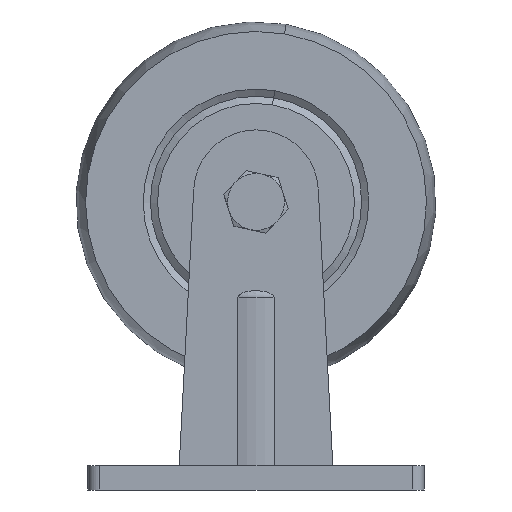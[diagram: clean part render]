
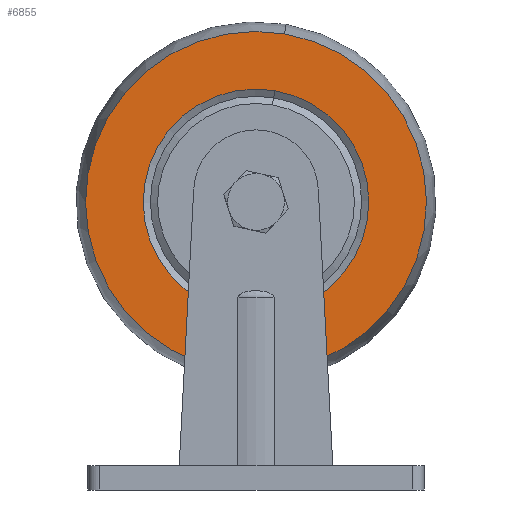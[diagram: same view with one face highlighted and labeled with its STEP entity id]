
A CAD part, front view. The second image highlights one B-rep face of the part: STEP entity #6855.
In plain terms, the highlighted planar face has unit normal (0, -1, 0).
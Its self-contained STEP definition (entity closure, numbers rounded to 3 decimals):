
#88 = DIRECTION ( 'NONE',  ( 0., -1., 0. ) ) ;
#116 = EDGE_CURVE ( 'NONE', #5189, #1787, #7304, .T. ) ;
#209 = AXIS2_PLACEMENT_3D ( 'NONE', #5595, #3317, #7262 ) ;
#318 = DIRECTION ( 'NONE',  ( 0., -1., 0. ) ) ;
#416 = DIRECTION ( 'NONE',  ( 0., 0., -1. ) ) ;
#539 = AXIS2_PLACEMENT_3D ( 'NONE', #3559, #2699, #5055 ) ;
#589 = DIRECTION ( 'NONE',  ( 0., 0., -1. ) ) ;
#900 = ORIENTED_EDGE ( 'NONE', *, *, #3084, .T. ) ;
#980 = FACE_OUTER_BOUND ( 'NONE', #4563, .T. ) ;
#1350 = EDGE_LOOP ( 'NONE', ( #2126, #9699 ) ) ;
#1354 = FACE_BOUND ( 'NONE', #1350, .T. ) ;
#1447 = CARTESIAN_POINT ( 'NONE',  ( 0., 0., 71. ) ) ;
#1524 = DIRECTION ( 'NONE',  ( 0., -1., 0. ) ) ;
#1787 = VERTEX_POINT ( 'NONE', #1447 ) ;
#2126 = ORIENTED_EDGE ( 'NONE', *, *, #7247, .F. ) ;
#2699 = DIRECTION ( 'NONE',  ( 0., -1., 0. ) ) ;
#3084 = EDGE_CURVE ( 'NONE', #1787, #5189, #4012, .T. ) ;
#3317 = DIRECTION ( 'NONE',  ( 0., -1., 0. ) ) ;
#3361 = VERTEX_POINT ( 'NONE', #4545 ) ;
#3559 = CARTESIAN_POINT ( 'NONE',  ( 0., 0., 0. ) ) ;
#4012 = CIRCLE ( 'NONE', #209, 71. ) ;
#4271 = AXIS2_PLACEMENT_3D ( 'NONE', #6201, #1524, #4639 ) ;
#4545 = CARTESIAN_POINT ( 'NONE',  ( 0., 0., 47. ) ) ;
#4563 = EDGE_LOOP ( 'NONE', ( #5663, #900 ) ) ;
#4632 = CIRCLE ( 'NONE', #6557, 47. ) ;
#4639 = DIRECTION ( 'NONE',  ( 0., 0., -1. ) ) ;
#4933 = VERTEX_POINT ( 'NONE', #8476 ) ;
#5055 = DIRECTION ( 'NONE',  ( 0., 0., -1. ) ) ;
#5189 = VERTEX_POINT ( 'NONE', #8474 ) ;
#5595 = CARTESIAN_POINT ( 'NONE',  ( 0., 0., 0. ) ) ;
#5663 = ORIENTED_EDGE ( 'NONE', *, *, #116, .T. ) ;
#6201 = CARTESIAN_POINT ( 'NONE',  ( 0., 0., 0. ) ) ;
#6557 = AXIS2_PLACEMENT_3D ( 'NONE', #8125, #318, #416 ) ;
#6855 = ADVANCED_FACE ( 'NONE', ( #980, #1354 ), #8616, .T. ) ;
#6908 = CIRCLE ( 'NONE', #539, 47. ) ;
#7247 = EDGE_CURVE ( 'NONE', #4933, #3361, #4632, .T. ) ;
#7262 = DIRECTION ( 'NONE',  ( 0., 0., -1. ) ) ;
#7287 = EDGE_CURVE ( 'NONE', #3361, #4933, #6908, .T. ) ;
#7304 = CIRCLE ( 'NONE', #4271, 71. ) ;
#7828 = AXIS2_PLACEMENT_3D ( 'NONE', #9409, #88, #589 ) ;
#8125 = CARTESIAN_POINT ( 'NONE',  ( 0., 0., 0. ) ) ;
#8474 = CARTESIAN_POINT ( 'NONE',  ( 0., 0., -71. ) ) ;
#8476 = CARTESIAN_POINT ( 'NONE',  ( 0., 0., -47. ) ) ;
#8616 = PLANE ( 'NONE',  #7828 ) ;
#9409 = CARTESIAN_POINT ( 'NONE',  ( 47., 0., 0. ) ) ;
#9699 = ORIENTED_EDGE ( 'NONE', *, *, #7287, .F. ) ;
